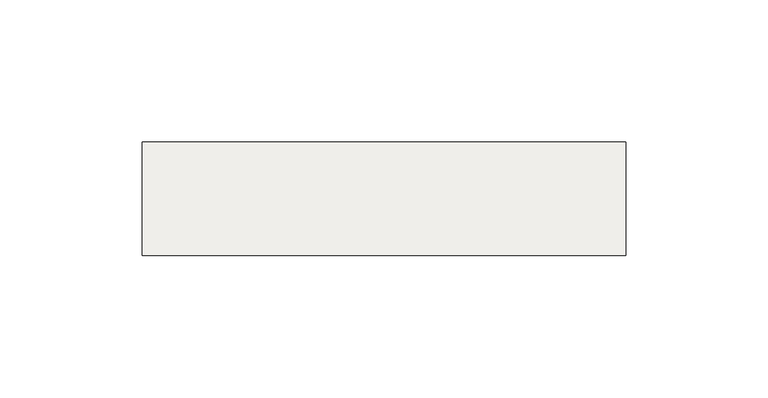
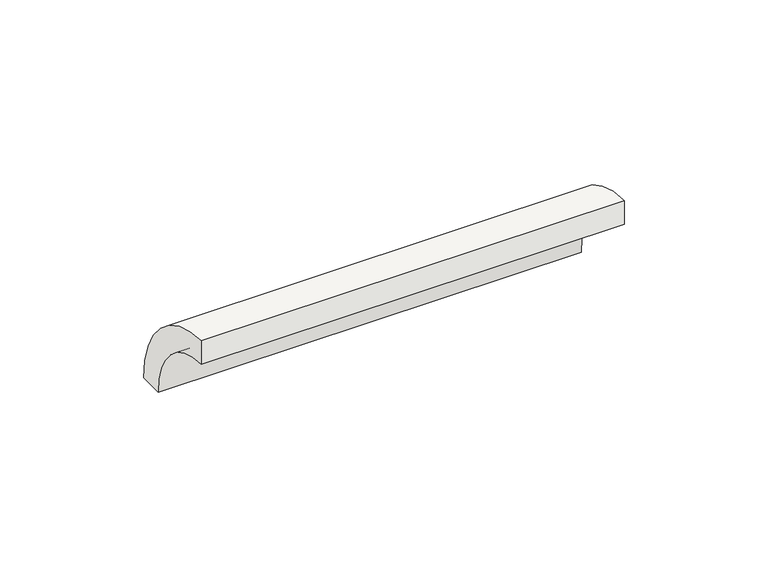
"""IFC4 building model written with IfcOpenShell, lengths in millimetres: slab geometry, ROSA GRES_138 : Pieza 138_Aqua_Plomo_Anti-Slip."""

from ifc_helpers import new_model, si_unit, point, frame, frame_2d, origin, origin_2d, place, context, project, spatial, polyline, circle_curve, trimmed, segment, composite_curve, outline, extrude, source, transform, mapped, element, save


def slab_594135eb(model_context):
    return source(origin(), model_context, "Body", "SweptSolid", [
        extrude(outline(composite_curve([segment(trimmed(circle_curve(origin_2d(), 40.0), [point((0.0, 40.0))], [point((40.0, 0.0))], False, "CARTESIAN"), True, "CONTINUOUS"), segment(polyline([(40.0, 0.0), (30.0265886, 0.0)]), True, "CONTINUOUS"), segment(trimmed(circle_curve(frame_2d((0.0044453, 0.0044453)), 30.0221435), [point((30.0265886, 0.0))], [point((0.0, 30.0265886))], True, "CARTESIAN"), True, "CONTINUOUS"), segment(polyline([(0.0, 30.0265886), (0.0, 40.0)]), True, "CONTINUOUS")], self_intersect=False)), frame((0.0, 0.0, 0.0), z_axis=(1.0, 0.0, 0.0), x_axis=(0.0, 1.0, 0.0)), (0.0, 0.0, 1.0), 170.0),
    ])


if __name__ == "__main__":
    model = new_model("IFC4")
    model_context = context("Model", 3, world=origin())
    ifc_project = project(units=[si_unit("LENGTHUNIT", "METRE", prefix="MILLI")], contexts=[model_context])
    site = spatial("IfcSite", under=ifc_project)
    building = spatial("IfcBuilding", under=site)
    placement = place(None, origin())
    slab_shape = slab_594135eb(model_context)
    element("IfcSlab", 1, ObjectType="ROSA GRES_138 : Pieza 138_Aqua_Plomo_Anti-Slip", at=placement, inside=building, context=model_context, shape_type="MappedRepresentation", body=[
        mapped(slab_shape, transform((0.0, 0.0, 0.0), x_axis=(1.0, 0.0, 0.0), y_axis=(0.0, 1.0, 0.0), z_axis=(0.0, 0.0, 1.0))),
    ])
    save(model, "model.ifc")
